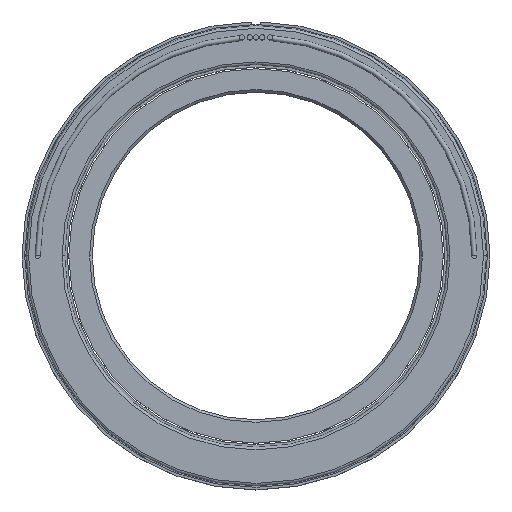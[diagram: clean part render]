
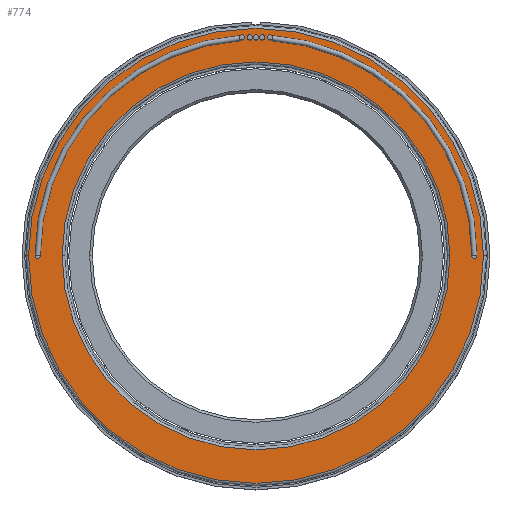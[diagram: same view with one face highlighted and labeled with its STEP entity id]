
A CAD part, top view. The second image highlights one B-rep face of the part: STEP entity #774.
In plain terms, the highlighted planar face has unit normal (0, 0, 1).
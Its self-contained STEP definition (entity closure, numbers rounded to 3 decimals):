
#6 = ORIENTED_EDGE ( 'NONE', *, *, #2961, .T. ) ;
#20 = CIRCLE ( 'NONE', #688, 94.742 ) ;
#184 = AXIS2_PLACEMENT_3D ( 'NONE', #2421, #808, #1727 ) ;
#225 = CARTESIAN_POINT ( 'NONE',  ( -94.742, 0., 29.337 ) ) ;
#254 = CARTESIAN_POINT ( 'NONE',  ( 0., 0., 29.337 ) ) ;
#261 = DIRECTION ( 'NONE',  ( 0., 0., 1. ) ) ;
#274 = DIRECTION ( 'NONE',  ( 0., 0., 1. ) ) ;
#294 = EDGE_LOOP ( 'NONE', ( #307, #1783 ) ) ;
#303 = CIRCLE ( 'NONE', #1142, 1.27 ) ;
#307 = ORIENTED_EDGE ( 'NONE', *, *, #1206, .T. ) ;
#310 = VERTEX_POINT ( 'NONE', #225 ) ;
#315 = EDGE_CURVE ( 'NONE', #310, #2705, #557, .T. ) ;
#360 = DIRECTION ( 'NONE',  ( 0., 0., -1. ) ) ;
#379 = CIRCLE ( 'NONE', #2196, 1.27 ) ;
#398 = FACE_BOUND ( 'NONE', #2048, .T. ) ;
#418 = EDGE_CURVE ( 'NONE', #2200, #2362, #2226, .T. ) ;
#439 = DIRECTION ( 'NONE',  ( 0., 0., -1. ) ) ;
#477 = CARTESIAN_POINT ( 'NONE',  ( -106.68, 0., 29.337 ) ) ;
#482 = ORIENTED_EDGE ( 'NONE', *, *, #2825, .F. ) ;
#557 = CIRCLE ( 'NONE', #891, 94.742 ) ;
#596 = DIRECTION ( 'NONE',  ( 0., 0., 1. ) ) ;
#645 = AXIS2_PLACEMENT_3D ( 'NONE', #2686, #596, #2668 ) ;
#688 = AXIS2_PLACEMENT_3D ( 'NONE', #834, #360, #2424 ) ;
#709 = CARTESIAN_POINT ( 'NONE',  ( 0., 0., 29.337 ) ) ;
#774 = ADVANCED_FACE ( 'NONE', ( #1994, #1627, #2559, #398 ), #1635, .T. ) ;
#779 = CARTESIAN_POINT ( 'NONE',  ( 0., 0., 29.337 ) ) ;
#808 = DIRECTION ( 'NONE',  ( 0., 0., 1. ) ) ;
#834 = CARTESIAN_POINT ( 'NONE',  ( 0., 0., 29.337 ) ) ;
#858 = CARTESIAN_POINT ( 'NONE',  ( -105.41, 0., 29.337 ) ) ;
#878 = EDGE_CURVE ( 'NONE', #2669, #1882, #1587, .T. ) ;
#891 = AXIS2_PLACEMENT_3D ( 'NONE', #709, #439, #940 ) ;
#914 = CIRCLE ( 'NONE', #645, 111.125 ) ;
#940 = DIRECTION ( 'NONE',  ( 1., 0., 0. ) ) ;
#990 = DIRECTION ( 'NONE',  ( 0., 0., 1. ) ) ;
#1036 = CARTESIAN_POINT ( 'NONE',  ( 111.125, 0., 29.337 ) ) ;
#1049 = CARTESIAN_POINT ( 'NONE',  ( 105.41, 0., 29.337 ) ) ;
#1142 = AXIS2_PLACEMENT_3D ( 'NONE', #477, #261, #1865 ) ;
#1197 = AXIS2_PLACEMENT_3D ( 'NONE', #779, #1243, #2672 ) ;
#1206 = EDGE_CURVE ( 'NONE', #1856, #1986, #914, .T. ) ;
#1220 = DIRECTION ( 'NONE',  ( 1., 0., 0. ) ) ;
#1243 = DIRECTION ( 'NONE',  ( 0., 0., 1. ) ) ;
#1353 = CARTESIAN_POINT ( 'NONE',  ( 106.68, 0., 29.337 ) ) ;
#1542 = CARTESIAN_POINT ( 'NONE',  ( -111.125, 0., 29.337 ) ) ;
#1587 = CIRCLE ( 'NONE', #2622, 1.27 ) ;
#1589 = ORIENTED_EDGE ( 'NONE', *, *, #418, .F. ) ;
#1627 = FACE_BOUND ( 'NONE', #2172, .T. ) ;
#1633 = EDGE_LOOP ( 'NONE', ( #2103, #2770 ) ) ;
#1635 = PLANE ( 'NONE',  #2864 ) ;
#1727 = DIRECTION ( 'NONE',  ( 1., 0., 0. ) ) ;
#1735 = CARTESIAN_POINT ( 'NONE',  ( 107.95, 0., 29.337 ) ) ;
#1783 = ORIENTED_EDGE ( 'NONE', *, *, #2566, .T. ) ;
#1856 = VERTEX_POINT ( 'NONE', #1036 ) ;
#1865 = DIRECTION ( 'NONE',  ( 1., 0., 0. ) ) ;
#1882 = VERTEX_POINT ( 'NONE', #1735 ) ;
#1895 = ORIENTED_EDGE ( 'NONE', *, *, #315, .T. ) ;
#1906 = CARTESIAN_POINT ( 'NONE',  ( 94.742, 0., 29.337 ) ) ;
#1986 = VERTEX_POINT ( 'NONE', #1542 ) ;
#1994 = FACE_BOUND ( 'NONE', #1633, .T. ) ;
#2048 = EDGE_LOOP ( 'NONE', ( #6, #1895 ) ) ;
#2103 = ORIENTED_EDGE ( 'NONE', *, *, #2209, .F. ) ;
#2172 = EDGE_LOOP ( 'NONE', ( #1589, #482 ) ) ;
#2196 = AXIS2_PLACEMENT_3D ( 'NONE', #1353, #2278, #2987 ) ;
#2200 = VERTEX_POINT ( 'NONE', #858 ) ;
#2209 = EDGE_CURVE ( 'NONE', #1882, #2669, #379, .T. ) ;
#2226 = CIRCLE ( 'NONE', #184, 1.27 ) ;
#2278 = DIRECTION ( 'NONE',  ( 0., 0., 1. ) ) ;
#2352 = DIRECTION ( 'NONE',  ( 1., 0., 0. ) ) ;
#2362 = VERTEX_POINT ( 'NONE', #2589 ) ;
#2421 = CARTESIAN_POINT ( 'NONE',  ( -106.68, 0., 29.337 ) ) ;
#2424 = DIRECTION ( 'NONE',  ( 1., 0., 0. ) ) ;
#2559 = FACE_OUTER_BOUND ( 'NONE', #294, .T. ) ;
#2566 = EDGE_CURVE ( 'NONE', #1986, #1856, #2579, .T. ) ;
#2579 = CIRCLE ( 'NONE', #1197, 111.125 ) ;
#2589 = CARTESIAN_POINT ( 'NONE',  ( -107.95, 0., 29.337 ) ) ;
#2618 = CARTESIAN_POINT ( 'NONE',  ( 106.68, 0., 29.337 ) ) ;
#2622 = AXIS2_PLACEMENT_3D ( 'NONE', #2618, #990, #1220 ) ;
#2668 = DIRECTION ( 'NONE',  ( 1., 0., 0. ) ) ;
#2669 = VERTEX_POINT ( 'NONE', #1049 ) ;
#2672 = DIRECTION ( 'NONE',  ( 1., 0., 0. ) ) ;
#2686 = CARTESIAN_POINT ( 'NONE',  ( 0., 0., 29.337 ) ) ;
#2705 = VERTEX_POINT ( 'NONE', #1906 ) ;
#2770 = ORIENTED_EDGE ( 'NONE', *, *, #878, .F. ) ;
#2825 = EDGE_CURVE ( 'NONE', #2362, #2200, #303, .T. ) ;
#2864 = AXIS2_PLACEMENT_3D ( 'NONE', #254, #274, #2352 ) ;
#2961 = EDGE_CURVE ( 'NONE', #2705, #310, #20, .T. ) ;
#2987 = DIRECTION ( 'NONE',  ( 1., 0., 0. ) ) ;
